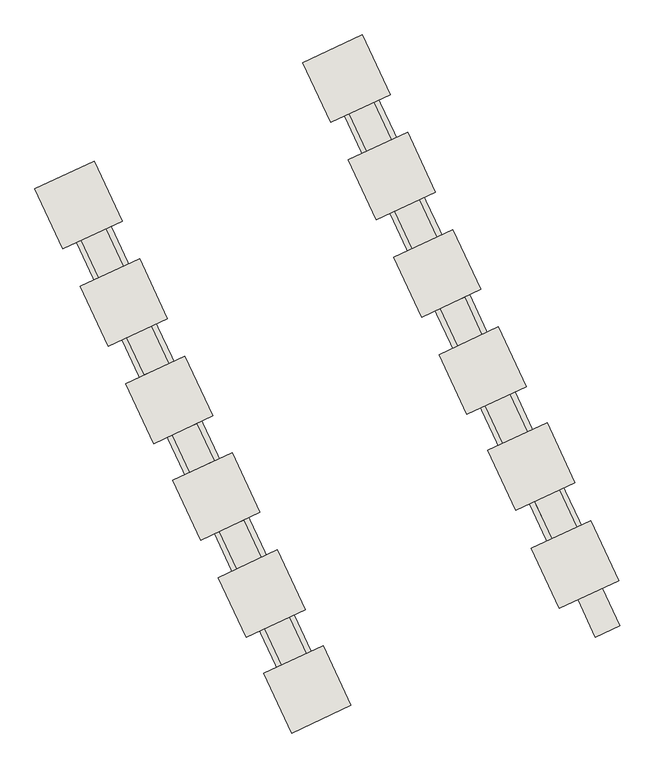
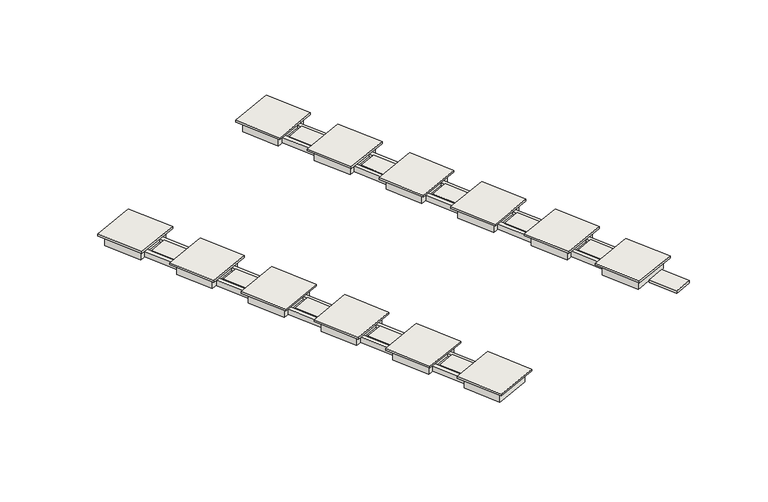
"""IFC4 building model written with IfcOpenShell, lengths in millimetres: wall geometry, goldan : goldan."""

import ifcopenshell
import ifcopenshell.guid

model = None  # the IFC model being written
_history = None  # IfcOwnerHistory: only IFC2X3 demands one
_inside = {}  # id of a spatial element -> (the spatial element, [elements in it])
_under = {}  # id of a project, library or spatial element -> (it, [spatial elements below it])
_declared = {}  # id of a project -> (the project, [libraries it declares])
_typed = {}  # id of a type object -> (the type object, [elements of that type])
_made_of = {}  # id of a material, layer set ... -> (it, [elements and type objects made of it])


def new_model(schema):
    """Start an empty IFC model of exactly this schema.

    Asked for "IFC4X3", IfcOpenShell would pick the latest addendum, in which some entities
    have other attributes; the version numbers below select the first issue.
    IFC2X3 requires an IfcOwnerHistory on every rooted entity: one is made here for all.
    """
    global model, _history
    if schema == "IFC4X3":
        model = ifcopenshell.file(schema_version=(4, 3, 0, 0))
    else:
        model = ifcopenshell.file(schema=schema)
    _inside.clear()
    _under.clear()
    _declared.clear()
    _typed.clear()
    _made_of.clear()
    _history = None
    if model.schema == "IFC2X3":
        org = make("IfcOrganization", Name="unknown")
        user = make(
            "IfcPersonAndOrganization",
            ThePerson=make("IfcPerson", FamilyName="unknown"),
            TheOrganization=org,
        )
        app = make(
            "IfcApplication",
            ApplicationDeveloper=org,
            Version="unknown",
            ApplicationFullName="unknown",
            ApplicationIdentifier="unknown",
        )
        _history = make(
            "IfcOwnerHistory",
            OwningUser=user,
            OwningApplication=app,
            ChangeAction="ADDED",
            CreationDate=0,
        )
    return model


def make(cls, **values):
    """One entity of the class cls with the attributes given. An attribute that is None is left unset."""
    return model.create_entity(
        cls, **{name: value for name, value in values.items() if value is not None}
    )


def rooted(cls, **values):
    """An entity with a GlobalId (a new one), such as an element, a storey or a relation."""
    return make(cls, GlobalId=ifcopenshell.guid.new(), OwnerHistory=_history, **values)


def si_unit(unit_type, name, prefix=None):
    """IfcSIUnit, for example si_unit("LENGTHUNIT", "METRE", prefix="MILLI")."""
    return make("IfcSIUnit", UnitType=unit_type, Prefix=prefix, Name=name)


def assignment(units):
    """IfcUnitAssignment: the units of a project."""
    return None if units is None else make("IfcUnitAssignment", Units=units)


def point(xyz):
    """IfcCartesianPoint."""
    return None if xyz is None else make("IfcCartesianPoint", Coordinates=xyz)


def direction(xyz):
    """IfcDirection."""
    return None if xyz is None else make("IfcDirection", DirectionRatios=xyz)


def frame(location, z_axis=None, x_axis=None):
    """IfcAxis2Placement3D, a coordinate frame: its origin and axes. An axis left out is left unset."""
    return make(
        "IfcAxis2Placement3D",
        Location=point(location),
        Axis=direction(z_axis),
        RefDirection=direction(x_axis),
    )


def origin():
    """The frame at (0, 0, 0) with its axes left unset."""
    return frame((0.0, 0.0, 0.0))


def place(relative_to, where):
    """IfcLocalPlacement: puts the frame where relative to a parent placement (None: the world)."""
    return make(
        "IfcLocalPlacement", PlacementRelTo=relative_to, RelativePlacement=where
    )


def context(
    kind, dimensions, precision=None, world=None, true_north=None, identifier=None
):
    """IfcGeometricRepresentationContext, for example the 3D "Model" context."""
    return make(
        "IfcGeometricRepresentationContext",
        ContextIdentifier=identifier,
        ContextType=kind,
        CoordinateSpaceDimension=dimensions,
        Precision=precision,
        WorldCoordinateSystem=world,
        TrueNorth=true_north,
    )


def project(units=None, contexts=None):
    """IfcProject with its units and contexts."""
    return rooted(
        "IfcProject",
        Name="project",
        RepresentationContexts=contexts,
        UnitsInContext=assignment(units),
    )


def spatial(cls, under=None, at=None, **own):
    """A site, building, storey or space (cls), placed at a placement, below another one or the project."""
    s = rooted(cls, ObjectPlacement=at, **own)
    if under is not None:
        _under.setdefault(under.id(), (under, []))[1].append(s)
    return s


def polyline(points):
    """IfcPolyline through the points."""
    return make("IfcPolyline", Points=[point(p) for p in points])


def outline(outer, holes=None, kind="AREA"):
    """IfcArbitraryClosedProfileDef: a profile drawn as a closed curve; with holes, ...WithVoids."""
    if holes is None:
        return make("IfcArbitraryClosedProfileDef", ProfileType=kind, OuterCurve=outer)
    return make(
        "IfcArbitraryProfileDefWithVoids",
        ProfileType=kind,
        OuterCurve=outer,
        InnerCurves=holes,
    )


def extrude(swept, where, along, depth):
    """IfcExtrudedAreaSolid: the profile swept, set in the frame where, extruded along a direction by depth."""
    return make(
        "IfcExtrudedAreaSolid",
        SweptArea=swept,
        Position=where,
        ExtrudedDirection=direction(along),
        Depth=depth,
    )


def shape(context_of_items, identifier, shape_type, items):
    """IfcShapeRepresentation: the items that make up one representation, for example the "Body"."""
    return make(
        "IfcShapeRepresentation",
        ContextOfItems=context_of_items,
        RepresentationIdentifier=identifier,
        RepresentationType=shape_type,
        Items=items,
    )


def source(mapping_origin, context_of_items, identifier, shape_type, items):
    """IfcRepresentationMap: a shape defined once, which mapped items show again and again."""
    return make(
        "IfcRepresentationMap",
        MappingOrigin=mapping_origin,
        MappedRepresentation=shape(context_of_items, identifier, shape_type, items),
    )


def transform(
    local_origin,
    x_axis=None,
    y_axis=None,
    z_axis=None,
    scale=None,
    scale2=None,
    scale3=None,
    uniform=True,
):
    """IfcCartesianTransformationOperator3D, or its non-uniform kind. x_axis, y_axis, z_axis: its Axis1, 2, 3."""
    if uniform:
        return make(
            "IfcCartesianTransformationOperator3D",
            Axis1=direction(x_axis),
            Axis2=direction(y_axis),
            LocalOrigin=point(local_origin),
            Scale=scale,
            Axis3=direction(z_axis),
        )
    return make(
        "IfcCartesianTransformationOperator3DnonUniform",
        Axis1=direction(x_axis),
        Axis2=direction(y_axis),
        LocalOrigin=point(local_origin),
        Scale=scale,
        Axis3=direction(z_axis),
        Scale2=scale2,
        Scale3=scale3,
    )


def mapped(mapping_source, mapping_target):
    """IfcMappedItem: shows the shape of a source again, moved by a transform."""
    return make(
        "IfcMappedItem", MappingSource=mapping_source, MappingTarget=mapping_target
    )


def made_of(thing, what):
    """Note that an element or type object is made of a material, layer set ...; save() writes the relation."""
    if what is not None:
        _made_of.setdefault(what.id(), (what, []))[1].append(thing)
    return thing


def element(
    cls,
    number,
    at=None,
    inside=None,
    cuts=None,
    type_object=None,
    material=None,
    context=None,
    identifier="Body",
    shape_type=None,
    held_by="IfcProductDefinitionShape",
    body=None,
    shapes=None,
    **own,
):
    """One element of the class cls, such as IfcWall. Its Tag is "e" and its number.

    at: its placement. inside: the storey or other place that contains it. cuts: it is an
    opening in that element (IfcRelVoidsElement). A single representation is given by context,
    identifier, shape_type and body (its items); several are given by shapes. held_by: the class
    of the entity that holds the representations. save() writes the other relations.
    """
    e = rooted(cls, Tag="e%d" % number, ObjectPlacement=at, **own)
    if body is not None:
        shapes = [shape(context, identifier, shape_type, body)]
    if shapes is not None:
        e.Representation = make(held_by, Representations=shapes)
    if inside is not None:
        _inside.setdefault(inside.id(), (inside, []))[1].append(e)
    if cuts is not None:
        rooted(
            "IfcRelVoidsElement", RelatingBuildingElement=cuts, RelatedOpeningElement=e
        )
    if type_object is not None:
        _typed.setdefault(type_object.id(), (type_object, []))[1].append(e)
    return made_of(e, material)


def aggregate(whole, parts):
    """IfcRelAggregates: a whole, such as a stair, and the parts it consists of."""
    return rooted("IfcRelAggregates", RelatingObject=whole, RelatedObjects=parts)


def save(model, path):
    """Write the relations noted so far, then the file.

    IfcRelAggregates (storeys below a building ...), IfcRelContainedInSpatialStructure (elements
    in a storey), IfcRelDefinesByType, IfcRelAssociatesMaterial and IfcRelDeclares: one each for
    every whole, place, type object, material and project.
    """
    for whole, parts in _under.values():
        aggregate(whole, parts)
    for where, things in _inside.values():
        rooted(
            "IfcRelContainedInSpatialStructure",
            RelatedElements=things,
            RelatingStructure=where,
        )
    for kind, things in _typed.values():
        rooted("IfcRelDefinesByType", RelatedObjects=things, RelatingType=kind)
    for what, things in _made_of.values():
        rooted("IfcRelAssociatesMaterial", RelatedObjects=things, RelatingMaterial=what)
    for by, libraries in _declared.values():
        rooted("IfcRelDeclares", RelatingContext=by, RelatedDefinitions=libraries)
    model.write(path)


def wall_0885565c(model_context):
    return source(origin(), model_context, "Body", "SweptSolid", [
        extrude(outline(polyline([(7238.9733617, 2671.7003659), (7564.2420331, 1974.1594489), (7111.0810363, 1762.8470057), (6785.8123649, 2460.3879227), (7238.9733617, 2671.7003659)])), frame((0.0, 0.0, 25600.0), z_axis=(0.0, 0.0, 1.0), x_axis=(1.0, 0.0, 0.0)), (0.0, 0.0, 1.0), 70.0),
        extrude(outline(polyline([(8084.2098851, 859.0847918), (8409.4785566, 161.5438748), (7956.3175598, -49.7685683), (7631.0488884, 647.7723487), (8084.2098851, 859.0847918)])), frame((0.0, 0.0, 25600.0), z_axis=(0.0, 0.0, 1.0), x_axis=(1.0, 0.0, 0.0)), (0.0, 0.0, 1.0), 70.0),
        extrude(outline(polyline([(8929.4464086, -953.5307822), (9254.7150801, -1651.0716992), (8801.5540833, -1862.3841424), (8476.2854118, -1164.8432254), (8929.4464086, -953.5307822)])), frame((0.0, 0.0, 25600.0), z_axis=(0.0, 0.0, 1.0), x_axis=(1.0, 0.0, 0.0)), (0.0, 0.0, 1.0), 70.0),
        extrude(outline(polyline([(9770.6641708, -2765.0191718), (10095.9328422, -3462.5600888), (9642.7718455, -3673.872532), (9317.503174, -2976.331615), (9770.6641708, -2765.0191718)])), frame((0.0, 0.0, 25600.0), z_axis=(0.0, 0.0, 1.0), x_axis=(1.0, 0.0, 0.0)), (0.0, 0.0, 1.0), 70.0),
        extrude(outline(polyline([(10690.9006942, -4542.6347459), (11016.1693657, -5240.1756629), (10563.0083689, -5451.4881061), (10237.7396975, -4753.9471891), (10690.9006942, -4542.6347459)])), frame((0.0, 0.0, 25600.0), z_axis=(0.0, 0.0, 1.0), x_axis=(1.0, 0.0, 0.0)), (0.0, 0.0, 1.0), 70.0),
        extrude(outline(polyline([(11496.1372177, -6375.25032), (11821.4058892, -7072.791237), (11368.2448924, -7284.1036801), (11042.9762209, -6586.5627631), (11496.1372177, -6375.25032)])), frame((0.0, 0.0, 25600.0), z_axis=(0.0, 0.0, 1.0), x_axis=(1.0, 0.0, 0.0)), (0.0, 0.0, 1.0), 70.0),
        extrude(outline(polyline([(5661.6938082, -6918.3925697), (5986.9624797, -7615.9334867), (5533.8014829, -7827.2459299), (5208.5328114, -7129.7050129), (5661.6938082, -6918.3925697)])), frame((0.0, 0.0, 25600.0), z_axis=(0.0, 0.0, 1.0), x_axis=(1.0, 0.0, 0.0)), (0.0, 0.0, 1.0), 70.0),
        extrude(outline(polyline([(4816.4572847, -5105.7769957), (5141.7259562, -5803.3179127), (4688.5649594, -6014.6303558), (4363.2962879, -5317.0894388), (4816.4572847, -5105.7769957)])), frame((0.0, 0.0, 25600.0), z_axis=(0.0, 0.0, 1.0), x_axis=(1.0, 0.0, 0.0)), (0.0, 0.0, 1.0), 70.0),
        extrude(outline(polyline([(3939.7149911, -3308.1889031), (4264.9836626, -4005.7298201), (3811.8226658, -4217.0422632), (3486.5539943, -3519.5013462), (3939.7149911, -3308.1889031)])), frame((0.0, 0.0, 25600.0), z_axis=(0.0, 0.0, 1.0), x_axis=(1.0, 0.0, 0.0)), (0.0, 0.0, 1.0), 70.0),
        extrude(outline(polyline([(3094.4784676, -1495.573329), (3419.7471391, -2193.114246), (2966.5861423, -2404.4266892), (2641.3174709, -1706.8857722), (3094.4784676, -1495.573329)])), frame((0.0, 0.0, 25600.0), z_axis=(0.0, 0.0, 1.0), x_axis=(1.0, 0.0, 0.0)), (0.0, 0.0, 1.0), 70.0),
        extrude(outline(polyline([(2249.2419442, 317.0422451), (2574.5106156, -380.4986719), (2121.3496189, -591.8111151), (1796.0809474, 105.7298019), (2249.2419442, 317.0422451)])), frame((0.0, 0.0, 25600.0), z_axis=(0.0, 0.0, 1.0), x_axis=(1.0, 0.0, 0.0)), (0.0, 0.0, 1.0), 70.0),
        extrude(outline(polyline([(6295.135984, -7442.9773768), (6815.103836, -8558.0520339), (5711.6615358, -9072.5956288), (5191.6936838, -7957.5209718), (6295.135984, -7442.9773768)])), frame((0.0, 0.0, 25800.0), z_axis=(0.0, 0.0, 1.0), x_axis=(1.0, 0.0, 0.0)), (0.0, 0.0, 1.0), 50.0),
        extrude(outline(polyline([(6258.9592701, -7579.8468556), (6679.2178506, -8481.0942899), (5772.9100636, -8903.7125516), (5352.6514831, -8002.4651173), (6258.9592701, -7579.8468556)])), frame((0.0, 0.0, 25500.0), z_axis=(0.0, 0.0, 1.0), x_axis=(1.0, 0.0, 0.0)), (0.0, 0.0, 1.0), 300.0),
        extrude(outline(polyline([(11279.8288127, -5118.5769373), (11799.7966647, -6233.6515943), (10696.3543645, -6748.1951893), (10176.3865125, -5633.1205322), (11279.8288127, -5118.5769373)])), frame((0.0, 0.0, 25800.0), z_axis=(0.0, 0.0, 1.0), x_axis=(1.0, 0.0, 0.0)), (0.0, 0.0, 1.0), 50.0),
        extrude(outline(polyline([(11243.6520988, -5255.446416), (11663.9106793, -6156.6938503), (10757.6028923, -6579.312112), (10337.3443118, -5678.0646777), (11243.6520988, -5255.446416)])), frame((0.0, 0.0, 25500.0), z_axis=(0.0, 0.0, 1.0), x_axis=(1.0, 0.0, 0.0)), (0.0, 0.0, 1.0), 300.0),
        extrude(outline(polyline([(150.0, 0.0), (150.0, -705.6101292), (0.0, -705.6101292), (0.0, -600.0094051), (80.0, -600.0094051), (80.0, -100.0015675), (0.0, -100.0015675), (0.0, 0.0), (150.0, 0.0)])), frame((10507.7423923, -5592.7821573, 25650.0), z_axis=(-0.42261826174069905, 0.9063077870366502, 0.0), x_axis=(0.0, 0.0, -1.0)), (0.0, 0.0, 1.0), 1000.0),
        extrude(outline(polyline([(10430.1788127, -3428.3555007), (10850.4373932, -4329.602935), (9944.1296061, -4752.2211967), (9523.8710257, -3850.9737625), (10430.1788127, -3428.3555007)])), frame((0.0, 0.0, 25500.0), z_axis=(0.0, 0.0, 1.0), x_axis=(1.0, 0.0, 0.0)), (0.0, 0.0, 1.0), 300.0),
        extrude(outline(polyline([(10466.3555266, -3291.486022), (10986.3233786, -4406.5606791), (9882.8810784, -4921.104274), (9362.9132264, -3806.0296169), (10466.3555266, -3291.486022)])), frame((0.0, 0.0, 25800.0), z_axis=(0.0, 0.0, 1.0), x_axis=(1.0, 0.0, 0.0)), (0.0, 0.0, 1.0), 50.0),
        extrude(outline(polyline([(150.0, 0.0), (150.0, -705.6101292), (0.0, -705.6101292), (0.0, -600.0094051), (80.0, -600.0094051), (80.0, -100.0015675), (0.0, -100.0015675), (0.0, 0.0), (150.0, 0.0)])), frame((9599.7613928, -3810.7691089, 25650.0), z_axis=(-0.42261826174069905, 0.9063077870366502, 0.0), x_axis=(0.0, 0.0, -1.0)), (0.0, 0.0, 1.0), 1000.0),
        extrude(outline(polyline([(9522.1978132, -1646.3424523), (9942.4563937, -2547.5898866), (9036.1486067, -2970.2081484), (8615.8900262, -2068.9607141), (9522.1978132, -1646.3424523)])), frame((0.0, 0.0, 25500.0), z_axis=(0.0, 0.0, 1.0), x_axis=(1.0, 0.0, 0.0)), (0.0, 0.0, 1.0), 300.0),
        extrude(outline(polyline([(9558.3745271, -1509.4729736), (10078.3423791, -2624.5476307), (8974.9000789, -3139.0912256), (8454.9322269, -2024.0165685), (9558.3745271, -1509.4729736)])), frame((0.0, 0.0, 25800.0), z_axis=(0.0, 0.0, 1.0), x_axis=(1.0, 0.0, 0.0)), (0.0, 0.0, 1.0), 50.0),
        extrude(outline(polyline([(150.0, 0.0), (150.0, -705.6101293), (0.0, -705.6101293), (0.0, -600.0094051), (80.0, -600.0094051), (80.0, -100.0015675), (0.0, -100.0015675), (0.0, 0.0), (150.0, 0.0)])), frame((8754.5248693, -1998.1535348, 25650.0), z_axis=(-0.42261826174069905, 0.9063077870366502, 0.0), x_axis=(0.0, 0.0, -1.0)), (0.0, 0.0, 1.0), 1000.0),
        extrude(outline(polyline([(8676.9612897, 166.2731217), (9097.2198702, -734.9743125), (8190.9120832, -1157.5925743), (7770.6535027, -256.34514), (8676.9612897, 166.2731217)])), frame((0.0, 0.0, 25500.0), z_axis=(0.0, 0.0, 1.0), x_axis=(1.0, 0.0, 0.0)), (0.0, 0.0, 1.0), 300.0),
        extrude(outline(polyline([(8713.1380036, 303.1426005), (9233.1058556, -811.9320566), (8129.6635554, -1326.4756515), (7609.6957034, -211.4009945), (8713.1380036, 303.1426005)])), frame((0.0, 0.0, 25800.0), z_axis=(0.0, 0.0, 1.0), x_axis=(1.0, 0.0, 0.0)), (0.0, 0.0, 1.0), 50.0),
        extrude(outline(polyline([(150.0, 0.0), (150.0, -705.6101293), (0.0, -705.6101293), (0.0, -600.0094051), (80.0, -600.0094051), (80.0, -100.0015676), (0.0, -100.0015676), (0.0, 0.0), (150.0, 0.0)])), frame((7909.2883458, -185.5379608, 25650.0), z_axis=(-0.42261826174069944, 0.90630778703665, 0.0), x_axis=(0.0, 0.0, -1.0)), (0.0, 0.0, 1.0), 1000.0),
        extrude(outline(polyline([(7831.7247662, 1978.8886958), (8251.9833467, 1077.6412615), (7345.6755597, 655.0229998), (6925.4169792, 1556.2704341), (7831.7247662, 1978.8886958)])), frame((0.0, 0.0, 25500.0), z_axis=(0.0, 0.0, 1.0), x_axis=(1.0, 0.0, 0.0)), (0.0, 0.0, 1.0), 300.0),
        extrude(outline(polyline([(7867.9014801, 2115.7581745), (8387.8693322, 1000.6835175), (7284.427032, 486.1399226), (6764.4591799, 1601.2145796), (7867.9014801, 2115.7581745)])), frame((0.0, 0.0, 25800.0), z_axis=(0.0, 0.0, 1.0), x_axis=(1.0, 0.0, 0.0)), (0.0, 0.0, 1.0), 50.0),
        extrude(outline(polyline([(150.0, 0.0), (150.0, -705.6101293), (0.0, -705.6101293), (0.0, -600.0094052), (80.0, -600.0094052), (80.0, -100.0015675), (0.0, -100.0015675), (0.0, 0.0), (150.0, 0.0)])), frame((7064.0518223, 1627.0776133, 25650.0), z_axis=(-0.42261826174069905, 0.9063077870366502, 0.0), x_axis=(0.0, 0.0, -1.0)), (0.0, 0.0, 1.0), 1000.0),
        extrude(outline(polyline([(6986.4882428, 3791.5042699), (7406.7468233, 2890.2568356), (6500.4390362, 2467.6385739), (6080.1804557, 3368.8860081), (6986.4882428, 3791.5042699)])), frame((0.0, 0.0, 25500.0), z_axis=(0.0, 0.0, 1.0), x_axis=(1.0, 0.0, 0.0)), (0.0, 0.0, 1.0), 300.0),
        extrude(outline(polyline([(7022.6649567, 3928.3737486), (7542.6328087, 2813.2990915), (6439.1905085, 2298.7554966), (5919.2226565, 3413.8301537), (7022.6649567, 3928.3737486)])), frame((0.0, 0.0, 25800.0), z_axis=(0.0, 0.0, 1.0), x_axis=(1.0, 0.0, 0.0)), (0.0, 0.0, 1.0), 50.0),
        extrude(outline(polyline([(150.0, 0.0), (150.0, -705.6101292), (0.0, -705.6101292), (0.0, -600.0094051), (80.0, -600.0094051), (80.0, -100.0015675), (0.0, -100.0015675), (0.0, 0.0), (150.0, 0.0)])), frame((5486.7722689, -7963.0153224, 25650.0), z_axis=(-0.42261826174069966, 0.9063077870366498, 0.0), x_axis=(0.0, 0.0, -1.0)), (0.0, 0.0, 1.0), 1000.0),
        extrude(outline(polyline([(5409.2086893, -5798.5886658), (5829.4672698, -6699.8361001), (4923.1594828, -7122.4543618), (4502.9009023, -6221.2069275), (5409.2086893, -5798.5886658)])), frame((0.0, 0.0, 25500.0), z_axis=(0.0, 0.0, 1.0), x_axis=(1.0, 0.0, 0.0)), (0.0, 0.0, 1.0), 300.0),
        extrude(outline(polyline([(5445.3854032, -5661.719187), (5965.3532552, -6776.7938441), (4861.910955, -7291.337439), (4341.943103, -6176.262782), (5445.3854032, -5661.719187)])), frame((0.0, 0.0, 25800.0), z_axis=(0.0, 0.0, 1.0), x_axis=(1.0, 0.0, 0.0)), (0.0, 0.0, 1.0), 50.0),
        extrude(outline(polyline([(150.0, 0.0), (150.0, -705.6101292), (0.0, -705.6101292), (0.0, -600.0094051), (80.0, -600.0094051), (80.0, -100.0015675), (0.0, -100.0015675), (0.0, 0.0), (150.0, 0.0)])), frame((4641.5357454, -6150.3997483, 25650.0), z_axis=(-0.422618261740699, 0.9063077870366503, 0.0), x_axis=(0.0, 0.0, -1.0)), (0.0, 0.0, 1.0), 1000.0),
        extrude(outline(polyline([(4563.9721658, -3985.9730917), (4984.2307463, -4887.220526), (4077.9229593, -5309.8387877), (3657.6643788, -4408.5913535), (4563.9721658, -3985.9730917)])), frame((0.0, 0.0, 25500.0), z_axis=(0.0, 0.0, 1.0), x_axis=(1.0, 0.0, 0.0)), (0.0, 0.0, 1.0), 300.0),
        extrude(outline(polyline([(4600.1488797, -3849.103613), (5120.1167317, -4964.17827), (4016.6744315, -5478.721865), (3496.7065795, -4363.6472079), (4600.1488797, -3849.103613)])), frame((0.0, 0.0, 25800.0), z_axis=(0.0, 0.0, 1.0), x_axis=(1.0, 0.0, 0.0)), (0.0, 0.0, 1.0), 50.0),
        extrude(outline(polyline([(150.0, 0.0), (150.0, -705.6101293), (0.0, -705.6101293), (0.0, -600.0094051), (80.0, -600.0094051), (80.0, -100.0015675), (0.0, -100.0015675), (0.0, 0.0), (150.0, 0.0)])), frame((3764.7934518, -4352.8116557, 25650.0), z_axis=(-0.4226182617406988, 0.9063077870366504, 0.0), x_axis=(0.0, 0.0, -1.0)), (0.0, 0.0, 1.0), 1000.0),
        extrude(outline(polyline([(3687.2298722, -2188.3849991), (4107.4884527, -3089.6324334), (3201.1806657, -3512.2506951), (2780.9220852, -2611.0032609), (3687.2298722, -2188.3849991)])), frame((0.0, 0.0, 25500.0), z_axis=(0.0, 0.0, 1.0), x_axis=(1.0, 0.0, 0.0)), (0.0, 0.0, 1.0), 300.0),
        extrude(outline(polyline([(3723.4065861, -2051.5155204), (4243.3744381, -3166.5901774), (3139.9321379, -3681.1337724), (2619.9642859, -2566.0591153), (3723.4065861, -2051.5155204)])), frame((0.0, 0.0, 25800.0), z_axis=(0.0, 0.0, 1.0), x_axis=(1.0, 0.0, 0.0)), (0.0, 0.0, 1.0), 50.0),
        extrude(outline(polyline([(150.0, 0.0), (150.0, -705.6101293), (0.0, -705.6101293), (0.0, -600.0094052), (80.0, -600.0094052), (80.0, -100.0015675), (0.0, -100.0015675), (0.0, 0.0), (150.0, 0.0)])), frame((2919.5569283, -2540.1960816, 25650.0), z_axis=(-0.42261826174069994, 0.9063077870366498, 0.0), x_axis=(0.0, 0.0, -1.0)), (0.0, 0.0, 1.0), 1000.0),
        extrude(outline(polyline([(2841.9933488, -375.769425), (3262.2519292, -1277.0168593), (2355.9441422, -1699.6351211), (1935.6855617, -798.3876868), (2841.9933488, -375.769425)])), frame((0.0, 0.0, 25500.0), z_axis=(0.0, 0.0, 1.0), x_axis=(1.0, 0.0, 0.0)), (0.0, 0.0, 1.0), 300.0),
        extrude(outline(polyline([(2878.1700627, -238.8999463), (3398.1379147, -1353.9746034), (2294.6956145, -1868.5181983), (1774.7277625, -753.4435412), (2878.1700627, -238.8999463)])), frame((0.0, 0.0, 25800.0), z_axis=(0.0, 0.0, 1.0), x_axis=(1.0, 0.0, 0.0)), (0.0, 0.0, 1.0), 50.0),
        extrude(outline(polyline([(2032.9335392, 1573.7156278), (2552.9013912, 458.6409707), (1449.459091, -55.9026242), (929.491239, 1059.1720329), (2032.9335392, 1573.7156278)])), frame((0.0, 0.0, 25800.0), z_axis=(0.0, 0.0, 1.0), x_axis=(1.0, 0.0, 0.0)), (0.0, 0.0, 1.0), 50.0),
        extrude(outline(polyline([(150.0, 0.0), (150.0, -705.6101293), (0.0, -705.6101293), (0.0, -600.0094052), (80.0, -600.0094052), (80.0, -100.0015675), (0.0, -100.0015675), (0.0, 0.0), (150.0, 0.0)])), frame((2074.3204048, -727.5805075, 25650.0), z_axis=(-0.42261826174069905, 0.9063077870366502, 0.0), x_axis=(0.0, 0.0, -1.0)), (0.0, 0.0, 1.0), 1000.0),
        extrude(outline(polyline([(1996.7568253, 1436.846149), (2417.0154058, 535.5987148), (1510.7076187, 112.980453), (1090.4490382, 1014.2278873), (1996.7568253, 1436.846149)])), frame((0.0, 0.0, 25500.0), z_axis=(0.0, 0.0, 1.0), x_axis=(1.0, 0.0, 0.0)), (0.0, 0.0, 1.0), 300.0),
    ])


if __name__ == "__main__":
    model = new_model("IFC4")
    model_context = context("Model", 3, world=origin())
    ifc_project = project(units=[si_unit("LENGTHUNIT", "METRE", prefix="MILLI")], contexts=[model_context])
    site = spatial("IfcSite", under=ifc_project)
    building = spatial("IfcBuilding", under=site)
    placement = place(None, origin())
    wall_shape = wall_0885565c(model_context)
    element("IfcWall", 1, ObjectType="goldan : goldan", at=placement, inside=building, context=model_context, shape_type="MappedRepresentation", body=[
        mapped(wall_shape, transform((0.0, 0.0, 0.0), x_axis=(1.0, 0.0, 0.0), y_axis=(0.0, 1.0, 0.0), z_axis=(0.0, 0.0, 1.0))),
    ])
    save(model, "model.ifc")
